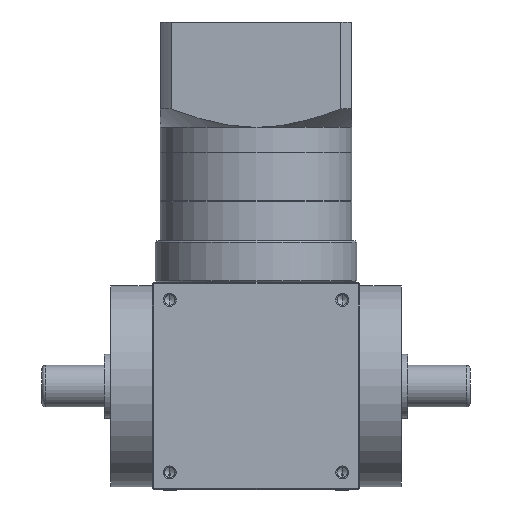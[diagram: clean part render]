
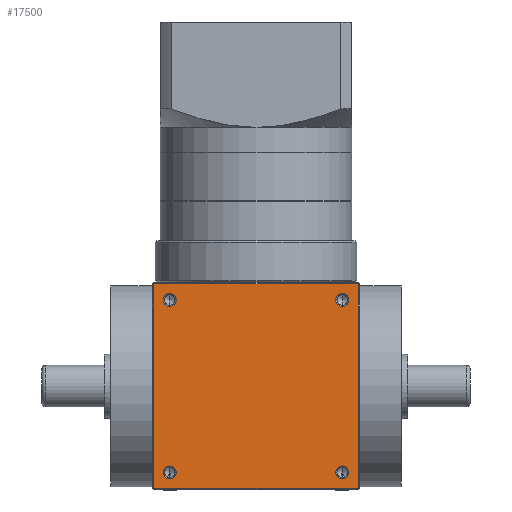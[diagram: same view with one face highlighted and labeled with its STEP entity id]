
A CAD part, front view. The second image highlights one B-rep face of the part: STEP entity #17500.
In plain terms, the highlighted planar face has unit normal (0, -1, 0).
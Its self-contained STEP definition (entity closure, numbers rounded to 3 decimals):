
#77 = LINE ( 'NONE', #129, #21421 ) ;
#129 = CARTESIAN_POINT ( 'NONE',  ( 32., -32.5, 65. ) ) ;
#291 = VERTEX_POINT ( 'NONE', #25245 ) ;
#556 = VERTEX_POINT ( 'NONE', #30024 ) ;
#1090 = DIRECTION ( 'NONE',  ( 0., 0., -1. ) ) ;
#1631 = VERTEX_POINT ( 'NONE', #28862 ) ;
#3281 = EDGE_CURVE ( 'NONE', #19691, #47015, #3668, .T. ) ;
#3533 = FACE_BOUND ( 'NONE', #48011, .T. ) ;
#3589 = CARTESIAN_POINT ( 'NONE',  ( -27., -32.5, 57.475 ) ) ;
#3668 = CIRCLE ( 'NONE', #18147, 2.025 ) ;
#4034 = DIRECTION ( 'NONE',  ( 0., 0., -1. ) ) ;
#5028 = DIRECTION ( 'NONE',  ( 0., -1., 0. ) ) ;
#7197 = EDGE_CURVE ( 'NONE', #36030, #41588, #37595, .T. ) ;
#7391 = CIRCLE ( 'NONE', #38527, 2.025 ) ;
#7786 = DIRECTION ( 'NONE',  ( 0., 0., 1. ) ) ;
#8682 = DIRECTION ( 'NONE',  ( 0., 0., -1. ) ) ;
#9754 = CIRCLE ( 'NONE', #55247, 2.025 ) ;
#10098 = ORIENTED_EDGE ( 'NONE', *, *, #47641, .F. ) ;
#10631 = VECTOR ( 'NONE', #22675, 1000. ) ;
#10994 = AXIS2_PLACEMENT_3D ( 'NONE', #16181, #33628, #7786 ) ;
#11866 = EDGE_CURVE ( 'NONE', #291, #35304, #24079, .T. ) ;
#12430 = VERTEX_POINT ( 'NONE', #42292 ) ;
#12585 = EDGE_CURVE ( 'NONE', #12430, #45927, #33554, .T. ) ;
#14768 = CARTESIAN_POINT ( 'NONE',  ( 27., -32.5, 61.525 ) ) ;
#14838 = FACE_BOUND ( 'NONE', #42845, .T. ) ;
#15005 = DIRECTION ( 'NONE',  ( 0., 0., -1. ) ) ;
#15089 = DIRECTION ( 'NONE',  ( 0., -1., 0. ) ) ;
#15157 = CARTESIAN_POINT ( 'NONE',  ( 27., -32.5, 59.5 ) ) ;
#15349 = CARTESIAN_POINT ( 'NONE',  ( -32., -32.5, 65. ) ) ;
#15974 = ORIENTED_EDGE ( 'NONE', *, *, #12585, .F. ) ;
#16181 = CARTESIAN_POINT ( 'NONE',  ( -32.5, -32.5, 65. ) ) ;
#16201 = EDGE_CURVE ( 'NONE', #35304, #291, #26304, .T. ) ;
#16939 = VECTOR ( 'NONE', #28374, 1000. ) ;
#17303 = ORIENTED_EDGE ( 'NONE', *, *, #7197, .F. ) ;
#17500 = ADVANCED_FACE ( 'NONE', ( #37873, #39258, #14838, #3533, #47943 ), #46444, .F. ) ;
#17613 = CARTESIAN_POINT ( 'NONE',  ( -27., -32.5, 5.5 ) ) ;
#17636 = EDGE_CURVE ( 'NONE', #41588, #36030, #49938, .T. ) ;
#18147 = AXIS2_PLACEMENT_3D ( 'NONE', #27370, #27164, #26982 ) ;
#18981 = DIRECTION ( 'NONE',  ( 0., -1., 0. ) ) ;
#19691 = VERTEX_POINT ( 'NONE', #36589 ) ;
#20106 = ORIENTED_EDGE ( 'NONE', *, *, #3281, .F. ) ;
#21421 = VECTOR ( 'NONE', #8682, 1000. ) ;
#21840 = VERTEX_POINT ( 'NONE', #22492 ) ;
#21852 = CARTESIAN_POINT ( 'NONE',  ( -32., -32.5, 0.5 ) ) ;
#21897 = DIRECTION ( 'NONE',  ( 0., 0., -1. ) ) ;
#22239 = EDGE_CURVE ( 'NONE', #36224, #1631, #34757, .T. ) ;
#22492 = CARTESIAN_POINT ( 'NONE',  ( 27., -32.5, 3.475 ) ) ;
#22675 = DIRECTION ( 'NONE',  ( -1., 0., 0. ) ) ;
#22799 = CARTESIAN_POINT ( 'NONE',  ( -27., -32.5, 5.5 ) ) ;
#23965 = EDGE_LOOP ( 'NONE', ( #36985, #53683, #15974, #34259 ) ) ;
#24079 = CIRCLE ( 'NONE', #39384, 2.025 ) ;
#25245 = CARTESIAN_POINT ( 'NONE',  ( -27., -32.5, 3.475 ) ) ;
#26304 = CIRCLE ( 'NONE', #36634, 2.025 ) ;
#26714 = DIRECTION ( 'NONE',  ( 0., -1., 0. ) ) ;
#26799 = ORIENTED_EDGE ( 'NONE', *, *, #27572, .F. ) ;
#26982 = DIRECTION ( 'NONE',  ( 0., 0., -1. ) ) ;
#27164 = DIRECTION ( 'NONE',  ( 0., -1., 0. ) ) ;
#27194 = DIRECTION ( 'NONE',  ( 0., 0., -1. ) ) ;
#27370 = CARTESIAN_POINT ( 'NONE',  ( -27., -32.5, 59.5 ) ) ;
#27572 = EDGE_CURVE ( 'NONE', #556, #21840, #7391, .T. ) ;
#28374 = DIRECTION ( 'NONE',  ( 0., 0., 1. ) ) ;
#28862 = CARTESIAN_POINT ( 'NONE',  ( 32., -32.5, 64.5 ) ) ;
#29738 = DIRECTION ( 'NONE',  ( 0., -1., 0. ) ) ;
#29899 = CARTESIAN_POINT ( 'NONE',  ( -32.5, -32.5, 64.5 ) ) ;
#30024 = CARTESIAN_POINT ( 'NONE',  ( 27., -32.5, 7.525 ) ) ;
#30740 = CARTESIAN_POINT ( 'NONE',  ( 27., -32.5, 59.5 ) ) ;
#32893 = ORIENTED_EDGE ( 'NONE', *, *, #46900, .F. ) ;
#33554 = LINE ( 'NONE', #44330, #10631 ) ;
#33628 = DIRECTION ( 'NONE',  ( 0., 1., 0. ) ) ;
#34259 = ORIENTED_EDGE ( 'NONE', *, *, #52330, .F. ) ;
#34757 = LINE ( 'NONE', #29899, #44889 ) ;
#35129 = DIRECTION ( 'NONE',  ( 0., 0., -1. ) ) ;
#35304 = VERTEX_POINT ( 'NONE', #42620 ) ;
#36030 = VERTEX_POINT ( 'NONE', #48706 ) ;
#36224 = VERTEX_POINT ( 'NONE', #42330 ) ;
#36589 = CARTESIAN_POINT ( 'NONE',  ( -27., -32.5, 61.525 ) ) ;
#36634 = AXIS2_PLACEMENT_3D ( 'NONE', #17613, #47841, #21897 ) ;
#36985 = ORIENTED_EDGE ( 'NONE', *, *, #22239, .F. ) ;
#37595 = CIRCLE ( 'NONE', #40295, 2.025 ) ;
#37873 = FACE_BOUND ( 'NONE', #47710, .T. ) ;
#38527 = AXIS2_PLACEMENT_3D ( 'NONE', #44912, #18981, #49203 ) ;
#39258 = FACE_BOUND ( 'NONE', #44035, .T. ) ;
#39384 = AXIS2_PLACEMENT_3D ( 'NONE', #22799, #53104, #27194 ) ;
#39955 = AXIS2_PLACEMENT_3D ( 'NONE', #30740, #5028, #35129 ) ;
#40039 = LINE ( 'NONE', #15349, #16939 ) ;
#40295 = AXIS2_PLACEMENT_3D ( 'NONE', #15157, #15089, #15005 ) ;
#41094 = ORIENTED_EDGE ( 'NONE', *, *, #17636, .F. ) ;
#41588 = VERTEX_POINT ( 'NONE', #14768 ) ;
#42292 = CARTESIAN_POINT ( 'NONE',  ( 32., -32.5, 0.5 ) ) ;
#42330 = CARTESIAN_POINT ( 'NONE',  ( -32., -32.5, 64.5 ) ) ;
#42620 = CARTESIAN_POINT ( 'NONE',  ( -27., -32.5, 7.525 ) ) ;
#42636 = EDGE_CURVE ( 'NONE', #45927, #36224, #40039, .T. ) ;
#42845 = EDGE_LOOP ( 'NONE', ( #10098, #26799 ) ) ;
#42962 = DIRECTION ( 'NONE',  ( 1., 0., 0. ) ) ;
#42982 = AXIS2_PLACEMENT_3D ( 'NONE', #55584, #29738, #4034 ) ;
#44035 = EDGE_LOOP ( 'NONE', ( #17303, #41094 ) ) ;
#44330 = CARTESIAN_POINT ( 'NONE',  ( -32.5, -32.5, 0.5 ) ) ;
#44889 = VECTOR ( 'NONE', #42962, 1000. ) ;
#44912 = CARTESIAN_POINT ( 'NONE',  ( 27., -32.5, 5.5 ) ) ;
#44986 = ORIENTED_EDGE ( 'NONE', *, *, #16201, .F. ) ;
#45067 = ORIENTED_EDGE ( 'NONE', *, *, #11866, .F. ) ;
#45697 = CIRCLE ( 'NONE', #42982, 2.025 ) ;
#45927 = VERTEX_POINT ( 'NONE', #21852 ) ;
#46444 = PLANE ( 'NONE',  #10994 ) ;
#46900 = EDGE_CURVE ( 'NONE', #47015, #19691, #45697, .T. ) ;
#47015 = VERTEX_POINT ( 'NONE', #3589 ) ;
#47641 = EDGE_CURVE ( 'NONE', #21840, #556, #9754, .T. ) ;
#47710 = EDGE_LOOP ( 'NONE', ( #32893, #20106 ) ) ;
#47841 = DIRECTION ( 'NONE',  ( 0., -1., 0. ) ) ;
#47943 = FACE_OUTER_BOUND ( 'NONE', #23965, .T. ) ;
#48011 = EDGE_LOOP ( 'NONE', ( #45067, #44986 ) ) ;
#48706 = CARTESIAN_POINT ( 'NONE',  ( 27., -32.5, 57.475 ) ) ;
#49203 = DIRECTION ( 'NONE',  ( 0., 0., -1. ) ) ;
#49938 = CIRCLE ( 'NONE', #39955, 2.025 ) ;
#52330 = EDGE_CURVE ( 'NONE', #1631, #12430, #77, .T. ) ;
#52626 = CARTESIAN_POINT ( 'NONE',  ( 27., -32.5, 5.5 ) ) ;
#53104 = DIRECTION ( 'NONE',  ( 0., -1., 0. ) ) ;
#53683 = ORIENTED_EDGE ( 'NONE', *, *, #42636, .F. ) ;
#55247 = AXIS2_PLACEMENT_3D ( 'NONE', #52626, #26714, #1090 ) ;
#55584 = CARTESIAN_POINT ( 'NONE',  ( -27., -32.5, 59.5 ) ) ;
